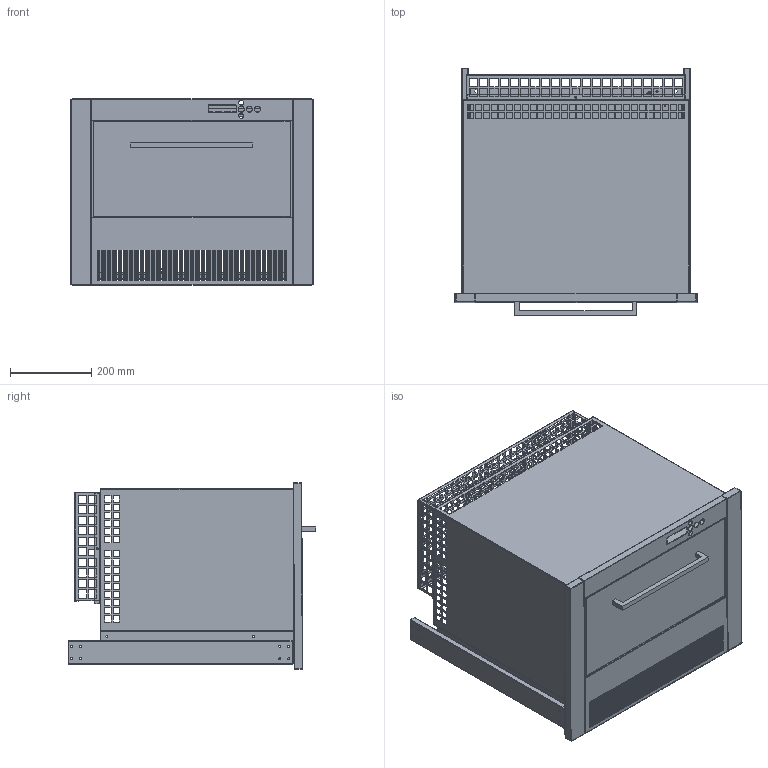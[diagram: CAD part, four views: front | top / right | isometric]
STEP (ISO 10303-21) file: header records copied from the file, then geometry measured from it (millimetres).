
FILE_DESCRIPTION(/* description */ ('Unknown'),/* implementation_level */ '2;1');
FILE_NAME(/* name */ 'HNG',/* time_stamp */ '2018-04-24T10:22:25+02:00',/* author */ ('Unknown'),/* organization */ ('Unknown'),/* preprocessor_version */ 'ST-DEVELOPER v16.7',/* originating_system */ 'DEX',/* authorisation */ $);
FILE_SCHEMA (('CONFIG_CONTROL_DESIGN'));
Products named in the file (19): HNG; 34+ESTRUCTURA_oa_0; 34-25_oa_1; 34-2; 34-24_oa_2; 34-11; 34-52+2557; 34-48_oa_3; 34-48; 34-49; 34-53+5420_oa_4; 34-9; 34-5+2410_der; 34-8; 34-5+2409_izq; 34-6+derecho_oa_5; 34-6+2; 34-6+izquierdo_oa_6; 34-6+2s
Assembly tree (18 placements, depth 4):
  HNG
    34+ESTRUCTURA_oa_0
      34-25_oa_1
        34-2
    34-24_oa_2
      34-11
      34-52+2557
    34-48_oa_3
      34-48
      34-49
    34-53+5420_oa_4
      34-9
      34-5+2410_der
      34-8
      34-5+2409_izq
    34-6+derecho_oa_5
      34-6+2
    34-6+izquierdo_oa_6
      34-6+2s
Bounding box: 596 x 608.25 x 459.2 mm (x, y, z)
Volume: 1638148.6 mm3; surface area: 3253539.2 mm2
Topology: 11 solids, 11 shells, 3058 faces, 8862 edges, 5821 vertices
Faces by surface type: plane 2761, cylinder 273, bspline 22, cone 2
Full cylindrical faces by diameter (mm): 2.7 x3, 3.242 x2, 3.5 x28, 4.25 x8, 5 x36, 5.5 x1, 6 x16, 7 x2, 12 x2, 13 x2, 15 x3
Entity records: 101765 total; most frequent: CARTESIAN_POINT 18241, ORIENTED_EDGE 17484, DIRECTION 15338, EDGE_CURVE 8742, LINE 8168, VECTOR 8168, VERTEX_POINT 5808, FACE_BOUND 4516
